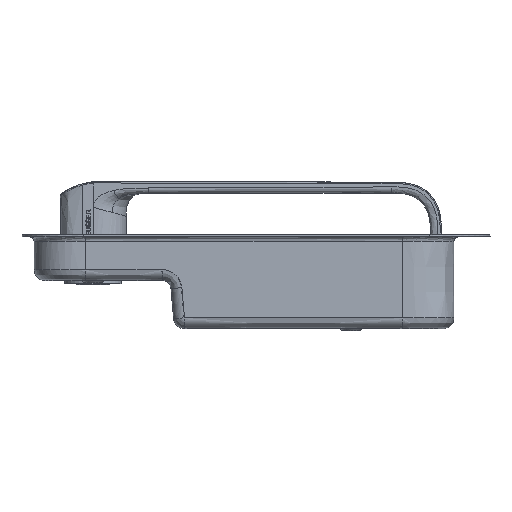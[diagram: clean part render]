
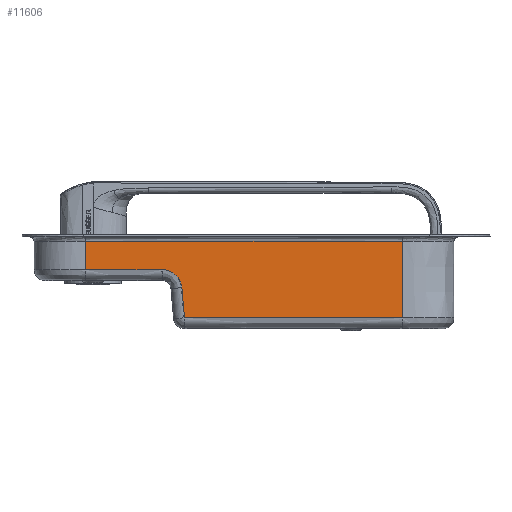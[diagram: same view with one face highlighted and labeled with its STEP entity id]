
A CAD part, front view. The second image highlights one B-rep face of the part: STEP entity #11606.
In plain terms, the highlighted planar face has unit normal (0, -1, 0).
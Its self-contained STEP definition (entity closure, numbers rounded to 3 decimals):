
#743=B_SPLINE_CURVE_WITH_KNOTS('',3,(#28155,#28156,#28157,#28158,#28159,
#28160,#28161,#28162,#28163,#28164,#28165,#28166,#28167),.UNSPECIFIED.,
 .F.,.F.,(4,3,3,3,4),(0.,0.25,0.5,0.75,1.),.UNSPECIFIED.);
#1902=LINE('',#28169,#2807);
#1903=LINE('',#28171,#2808);
#1904=LINE('',#28173,#2809);
#1905=LINE('',#28175,#2810);
#1906=LINE('',#28177,#2811);
#1907=LINE('',#28178,#2812);
#2807=VECTOR('',#14068,10.);
#2808=VECTOR('',#14069,10.);
#2809=VECTOR('',#14070,10.);
#2810=VECTOR('',#14071,10.);
#2811=VECTOR('',#14072,10.);
#2812=VECTOR('',#14073,10.);
#3388=FACE_OUTER_BOUND('',#4107,.T.);
#4107=EDGE_LOOP('',(#9829,#9830,#9831,#9832,#9833,#9834,#9835));
#5309=VERTEX_POINT('',#28153);
#5310=VERTEX_POINT('',#28154);
#5311=VERTEX_POINT('',#28168);
#5312=VERTEX_POINT('',#28170);
#5313=VERTEX_POINT('',#28172);
#5314=VERTEX_POINT('',#28174);
#5315=VERTEX_POINT('',#28176);
#6832=EDGE_CURVE('',#5309,#5310,#743,.T.);
#6833=EDGE_CURVE('',#5310,#5311,#1902,.T.);
#6834=EDGE_CURVE('',#5311,#5312,#1903,.T.);
#6835=EDGE_CURVE('',#5312,#5313,#1904,.T.);
#6836=EDGE_CURVE('',#5313,#5314,#1905,.T.);
#6837=EDGE_CURVE('',#5314,#5315,#1906,.T.);
#6838=EDGE_CURVE('',#5315,#5309,#1907,.T.);
#9829=ORIENTED_EDGE('',*,*,#6832,.T.);
#9830=ORIENTED_EDGE('',*,*,#6833,.T.);
#9831=ORIENTED_EDGE('',*,*,#6834,.T.);
#9832=ORIENTED_EDGE('',*,*,#6835,.T.);
#9833=ORIENTED_EDGE('',*,*,#6836,.T.);
#9834=ORIENTED_EDGE('',*,*,#6837,.T.);
#9835=ORIENTED_EDGE('',*,*,#6838,.T.);
#10422=PLANE('',#12186);
#11606=ADVANCED_FACE('',(#3388),#10422,.F.);
#12186=AXIS2_PLACEMENT_3D('',#28152,#14066,#14067);
#14066=DIRECTION('center_axis',(0.,1.,0.));
#14067=DIRECTION('ref_axis',(0.,0.,1.));
#14068=DIRECTION('',(0.085,0.,-0.996));
#14069=DIRECTION('',(1.,0.,0.));
#14070=DIRECTION('',(0.,0.,1.));
#14071=DIRECTION('',(-1.,0.,0.));
#14072=DIRECTION('',(0.,0.,-1.));
#14073=DIRECTION('',(1.,0.,0.));
#28152=CARTESIAN_POINT('Origin',(-2.567,-110.021,21.195));
#28153=CARTESIAN_POINT('',(-39.938,-110.021,5.985));
#28154=CARTESIAN_POINT('',(-30.971,-110.021,-2.249));
#28155=CARTESIAN_POINT('Ctrl Pts',(-39.938,-110.021,
5.985));
#28156=CARTESIAN_POINT('Ctrl Pts',(-38.822,-110.021,
5.985));
#28157=CARTESIAN_POINT('Ctrl Pts',(-37.703,-110.021,
5.775));
#28158=CARTESIAN_POINT('Ctrl Pts',(-36.672,-110.021,
5.373));
#28159=CARTESIAN_POINT('Ctrl Pts',(-35.641,-110.021,
4.972));
#28160=CARTESIAN_POINT('Ctrl Pts',(-34.668,-110.021,
4.365));
#28161=CARTESIAN_POINT('Ctrl Pts',(-33.851,-110.021,
3.614));
#28162=CARTESIAN_POINT('Ctrl Pts',(-33.034,-110.021,
2.864));
#28163=CARTESIAN_POINT('Ctrl Pts',(-32.346,-110.021,
1.946));
#28164=CARTESIAN_POINT('Ctrl Pts',(-31.858,-110.021,0.953));
#28165=CARTESIAN_POINT('Ctrl Pts',(-31.37,-110.021,
-0.04));
#28166=CARTESIAN_POINT('Ctrl Pts',(-31.066,-110.021,-1.137));
#28167=CARTESIAN_POINT('Ctrl Pts',(-30.971,-110.021,
-2.249));
#28168=CARTESIAN_POINT('',(-29.794,-110.021,-16.015));
#28169=CARTESIAN_POINT('',(-30.971,-110.021,-2.249));
#28170=CARTESIAN_POINT('',(69.894,-110.021,-16.015));
#28171=CARTESIAN_POINT('',(-29.794,-110.021,-16.015));
#28172=CARTESIAN_POINT('',(69.894,-110.021,18.985));
#28173=CARTESIAN_POINT('',(69.894,-110.021,-16.015));
#28174=CARTESIAN_POINT('',(-75.029,-110.021,18.985));
#28175=CARTESIAN_POINT('',(69.894,-110.021,18.985));
#28176=CARTESIAN_POINT('',(-75.029,-110.021,5.985));
#28177=CARTESIAN_POINT('',(-75.029,-110.021,18.985));
#28178=CARTESIAN_POINT('',(-75.029,-110.021,5.985));
